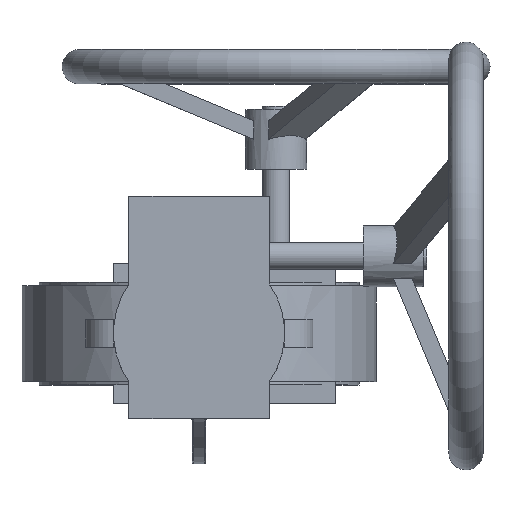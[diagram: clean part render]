
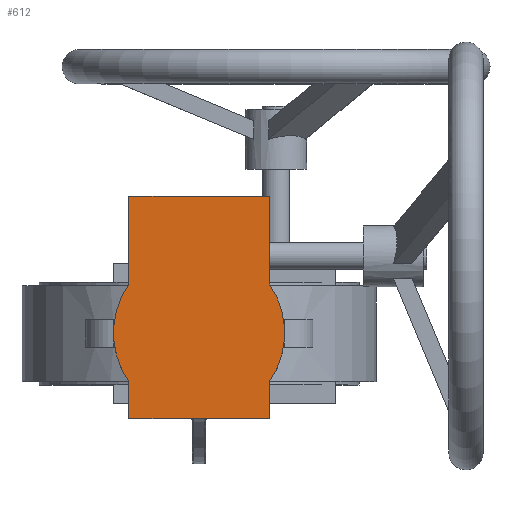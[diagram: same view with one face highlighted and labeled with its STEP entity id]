
A CAD part, top view. The second image highlights one B-rep face of the part: STEP entity #612.
In plain terms, the highlighted planar face has unit normal (0, 0, 1) as drawn and (0, 0, -1) by its records, which use the part's own axes.
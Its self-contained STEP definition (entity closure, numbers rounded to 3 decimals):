
#612 = ADVANCED_FACE( '', ( #1332 ), #1333, .F. );
#1332 = FACE_OUTER_BOUND( '', #2837, .T. );
#1333 = PLANE( '', #2838 );
#2837 = EDGE_LOOP( '', ( #5252, #5253, #5254, #5255, #5256, #5257, #5258, #5259 ) );
#2838 = AXIS2_PLACEMENT_3D( '', #5260, #5261, #5262 );
#5252 = ORIENTED_EDGE( '', *, *, #6461, .F. );
#5253 = ORIENTED_EDGE( '', *, *, #6767, .F. );
#5254 = ORIENTED_EDGE( '', *, *, #6390, .F. );
#5255 = ORIENTED_EDGE( '', *, *, #6695, .F. );
#5256 = ORIENTED_EDGE( '', *, *, #6233, .F. );
#5257 = ORIENTED_EDGE( '', *, *, #6119, .F. );
#5258 = ORIENTED_EDGE( '', *, *, #6691, .F. );
#5259 = ORIENTED_EDGE( '', *, *, #6342, .F. );
#5260 = CARTESIAN_POINT( '', ( 0., 0., 0. ) );
#5261 = DIRECTION( '', ( 0., 0., 1. ) );
#5262 = DIRECTION( '', ( 1., 0., 0. ) );
#6119 = EDGE_CURVE( '', #7000, #7002, #7003, .T. );
#6233 = EDGE_CURVE( '', #7002, #7205, #7206, .T. );
#6342 = EDGE_CURVE( '', #7387, #7389, #7390, .T. );
#6390 = EDGE_CURVE( '', #7466, #7468, #7469, .T. );
#6461 = EDGE_CURVE( '', #7575, #7387, #7577, .T. );
#6691 = EDGE_CURVE( '', #7389, #7000, #7910, .T. );
#6695 = EDGE_CURVE( '', #7205, #7466, #7914, .T. );
#6767 = EDGE_CURVE( '', #7468, #7575, #8004, .T. );
#7000 = VERTEX_POINT( '', #8378 );
#7002 = VERTEX_POINT( '', #8381 );
#7003 = LINE( '', #8382, #8383 );
#7205 = VERTEX_POINT( '', #9567 );
#7206 = CIRCLE( '', #9568, 50. );
#7387 = VERTEX_POINT( '', #10464 );
#7389 = VERTEX_POINT( '', #10467 );
#7390 = LINE( '', #10468, #10469 );
#7466 = VERTEX_POINT( '', #10960 );
#7468 = VERTEX_POINT( '', #10963 );
#7469 = LINE( '', #10964, #10965 );
#7575 = VERTEX_POINT( '', #11226 );
#7577 = CIRCLE( '', #11229, 50. );
#7910 = LINE( '', #13373, #13374 );
#7914 = LINE( '', #13395, #13396 );
#8004 = LINE( '', #13695, #13696 );
#8378 = CARTESIAN_POINT( '', ( 80., 41., 0. ) );
#8381 = CARTESIAN_POINT( '', ( 28.618, 41., 0. ) );
#8382 = CARTESIAN_POINT( '', ( 80., 41., 0. ) );
#8383 = VECTOR( '', #14295, 1000. );
#9567 = CARTESIAN_POINT( '', ( -28.618, 41., 0. ) );
#9568 = AXIS2_PLACEMENT_3D( '', #14370, #14371, #14372 );
#10464 = CARTESIAN_POINT( '', ( 28.618, -41., 0. ) );
#10467 = CARTESIAN_POINT( '', ( 80., -41., 0. ) );
#10468 = CARTESIAN_POINT( '', ( 28.618, -41., 0. ) );
#10469 = VECTOR( '', #14470, 1000. );
#10960 = CARTESIAN_POINT( '', ( -50., 41., 0. ) );
#10963 = CARTESIAN_POINT( '', ( -50., -41., 0. ) );
#10964 = CARTESIAN_POINT( '', ( -50., 41., 0. ) );
#10965 = VECTOR( '', #14502, 1000. );
#11226 = CARTESIAN_POINT( '', ( -28.618, -41., 0. ) );
#11229 = AXIS2_PLACEMENT_3D( '', #14590, #14591, #14592 );
#13373 = CARTESIAN_POINT( '', ( 80., -41., 0. ) );
#13374 = VECTOR( '', #14768, 1000. );
#13395 = CARTESIAN_POINT( '', ( -28.618, 41., 0. ) );
#13396 = VECTOR( '', #14769, 1000. );
#13695 = CARTESIAN_POINT( '', ( -50., -41., 0. ) );
#13696 = VECTOR( '', #14823, 1000. );
#14295 = DIRECTION( '', ( -1., 0., 0. ) );
#14370 = CARTESIAN_POINT( '', ( 0., 0., 0. ) );
#14371 = DIRECTION( '', ( 0., 0., 1. ) );
#14372 = DIRECTION( '', ( 1., 0., 0. ) );
#14470 = DIRECTION( '', ( 1., 0., 0. ) );
#14502 = DIRECTION( '', ( 0., -1., 0. ) );
#14590 = CARTESIAN_POINT( '', ( 0., 0., 0. ) );
#14591 = DIRECTION( '', ( 0., 0., 1. ) );
#14592 = DIRECTION( '', ( 1., 0., 0. ) );
#14768 = DIRECTION( '', ( 0., 1., 0. ) );
#14769 = DIRECTION( '', ( -1., 0., 0. ) );
#14823 = DIRECTION( '', ( 1., 0., 0. ) );
